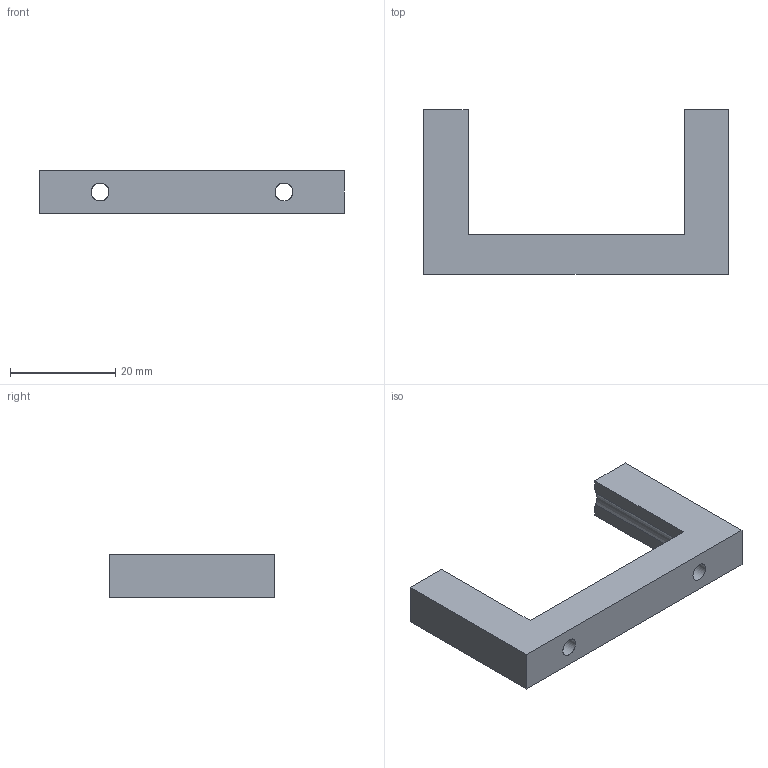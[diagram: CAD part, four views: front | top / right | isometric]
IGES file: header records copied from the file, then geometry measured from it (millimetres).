
Global section: file name: C:\Users\gehrichcr\Documents\1 Drive Backup\Practice\Inspire\V1.5\IGES\Frame Strengthener V1.5.igs; native system: NX V8.5; preprocessor: SIEMENS PLM Software NX 8.5; date: 20150608.123508; units: millimetre
Bounding box: 58 x 31.35 x 8 mm (x, y, z)
Surface area: 3946.7 mm2 (no closed solid volume)
Topology: 0 solids, 0 shells, 26 faces, 195 edges, 192 vertices
Faces by surface type: bspline 26
